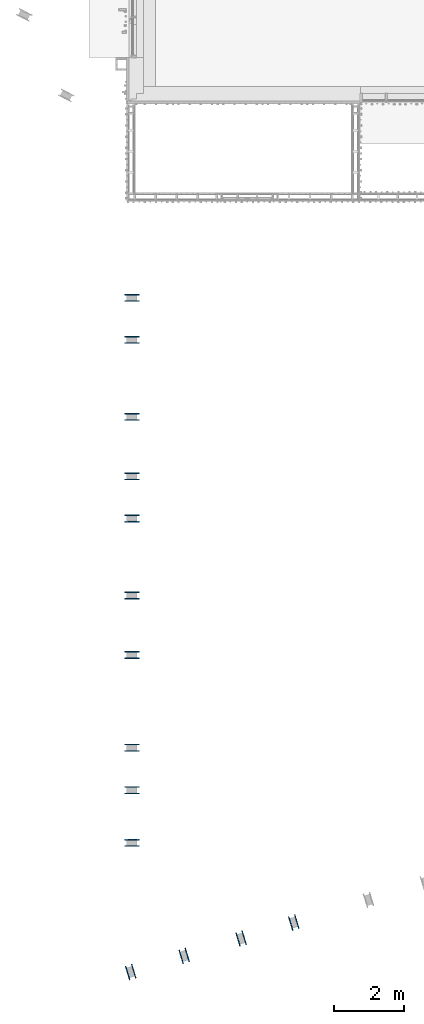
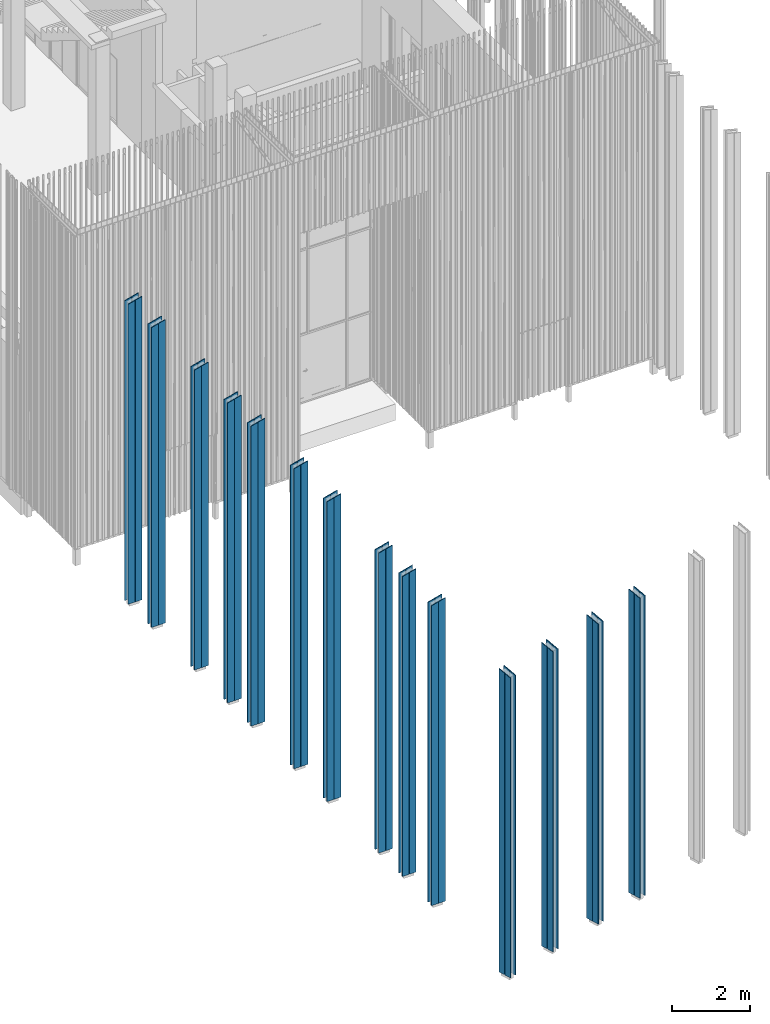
# One storey, part 28 of 390: 56 discrete accessories.
"""IFC2X3 building model written with IfcOpenShell, lengths in millimetres."""

from ifc_helpers import new_model, entity, si_unit, converted_unit, derived_unit, money_unit, direction, frame, origin_with_axes, place, context, subcontext, project, spatial, faceted_brep, source, transform, mapped, material, type_object, element, save


model = new_model("IFC2X3")

# Units and contexts
model_context = context("Model", 3, precision=1e-05, world=origin_with_axes(), true_north=direction((0.0, 1.0)))
body_context = subcontext(model_context, "Body", "Model", "MODEL_VIEW")
ifc_project = project(units=[si_unit("LENGTHUNIT", "METRE", prefix="MILLI"), si_unit("AREAUNIT", "SQUARE_METRE"), si_unit("VOLUMEUNIT", "CUBIC_METRE"), converted_unit("PLANEANGLEUNIT", "DEGREE", entity("IfcPlaneAngleMeasure", 0.0174532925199), si_unit("PLANEANGLEUNIT", "RADIAN"), dimensions=[0, 0, 0, 0, 0, 0, 0]), si_unit("SOLIDANGLEUNIT", "STERADIAN"), money_unit("EUR"), converted_unit("TIMEUNIT", "Year", entity("IfcTimeMeasure", 31556926.0), si_unit("TIMEUNIT", "SECOND"), dimensions=[0, 0, 1, 0, 0, 0, 0]), si_unit("MASSUNIT", "GRAM", prefix="KILO"), si_unit("THERMODYNAMICTEMPERATUREUNIT", "DEGREE_CELSIUS"), si_unit("LUMINOUSINTENSITYUNIT", "LUMEN"), si_unit("ENERGYUNIT", "JOULE", prefix="MEGA"), derived_unit("THERMALCONDUCTANCEUNIT", [(si_unit("POWERUNIT", "WATT"), 1), (si_unit("LENGTHUNIT", "METRE"), -1), (si_unit("THERMODYNAMICTEMPERATUREUNIT", "KELVIN"), -1)]), derived_unit("SPECIFICHEATCAPACITYUNIT", [(si_unit("ENERGYUNIT", "JOULE"), 1), (si_unit("MASSUNIT", "GRAM", prefix="KILO"), -1), (si_unit("THERMODYNAMICTEMPERATUREUNIT", "KELVIN"), -1)]), derived_unit("MASSDENSITYUNIT", [(si_unit("MASSUNIT", "GRAM", prefix="KILO"), 1), (si_unit("VOLUMEUNIT", "CUBIC_METRE"), -1)])], contexts=[model_context])

# Site, building, storey
site_placement = place(None, origin_with_axes())
site = spatial("IfcSite", under=ifc_project, at=site_placement, Name="Site", CompositionType="ELEMENT")
building_placement = place(site_placement, origin_with_axes())
building = spatial("IfcBuilding", under=site, at=building_placement, Name="Building", CompositionType="ELEMENT")
storey_placement = place(building_placement, origin_with_axes())
storey = spatial("IfcBuildingStorey", under=building, at=storey_placement, Name="1 korrus", CompositionType="ELEMENT", Elevation=0.0)

# Discrete accessories
ifc_material = material(Name="GENEERILINE - VÄLINE VOODER")
discrete_accessory_type = type_object("IfcDiscreteAccessoryType", Name="GENEERILINE - VÄLINE VOODER")
shared_shape_1 = source(origin_with_axes(), body_context, "Body", "Brep", [
    faceted_brep([(162190.360855, 119453.798876, 100.0), (162190.360855, 119453.798876, 9600.0), (162168.524839, 119456.480002, 9600.0), (162168.524839, 119456.480002, 100.0), (162214.734723, 119652.308107, 100.0), (162214.734723, 119652.308107, 9546.41016151), (162192.898708, 119654.989232, 9546.41016151), (162192.898708, 119654.989232, 100.0)], [[[0, 1, 2, 3]], [[1, 0, 4, 5]], [[2, 1, 5, 6]], [[3, 2, 6, 7]], [[0, 3, 7, 4]], [[7, 6, 5, 4]]]),
])
for number, where, z_axis, x_axis in (
    (1, (261109.441137, -115283.662465, 0.0), (0.0, 0.0, 1.0), (-0.121869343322, 0.992546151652, 0.0)),
    (2, (261109.441179, -122348.662465, 0.0), (0.0, 0.0, 1.0), (-0.121869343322, 0.992546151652, 0.0)),
    (3, (261109.441176, -120848.662465, 0.0), (0.0, 0.0, 1.0), (-0.121869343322, 0.992546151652, 0.0)),
    (4, (261109.441174, -119634.043718, 0.0), (0.0, 0.0, 1.0), (-0.121869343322, 0.992546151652, 0.0)),
    (5, (261109.441135, -116983.662465, 0.0), (0.0, 0.0, 1.0), (-0.121869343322, 0.992546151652, 0.0)),
    (6, (261109.441147, -106783.662465, 0.0), (0.0, 0.0, 1.0), (-0.121869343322, 0.992546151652, 0.0)),
    (7, (261109.441146, -107983.662465, 0.0), (0.0, 0.0, 1.0), (-0.121869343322, 0.992546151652, 0.0)),
    (8, (261109.441143, -110183.662465, 0.0), (0.0, 0.0, 1.0), (-0.121869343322, 0.992546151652, 0.0)),
    (9, (261109.441141, -111883.662465, 0.0), (0.0, 0.0, 1.0), (-0.121869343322, 0.992546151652, 0.0)),
    (10, (261109.44114, -113083.662465, 0.0), (0.0, 0.0, 1.0), (-0.121869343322, 0.992546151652, 0.0)),
    (11, (222491.660796, 195576.478839, 0.0), (0.0, 0.0, 1.0), (-0.914362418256, -0.404896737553, 0.0)),
    (12, (224018.916698, 196040.047948, 0.0), (0.0, 0.0, 1.0), (-0.914362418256, -0.404896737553, 0.0)),
    (13, (225644.126622, 196533.349113, 0.0), (0.0, 0.0, 1.0), (-0.914362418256, -0.404896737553, 0.0)),
    (14, (227149.110403, 196990.157949, 0.0), (0.0, 0.0, 1.0), (-0.914362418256, -0.404896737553, 0.0)),
):
    element("IfcDiscreteAccessory", number, at=place(storey_placement, frame(where, z_axis=z_axis, x_axis=x_axis)), inside=storey, type_object=discrete_accessory_type, material=ifc_material, Name="Päikesevarjestuspost", context=body_context, shape_type="MappedRepresentation", body=[
        mapped(shared_shape_1, transform((0.0, 0.0, 0.0))),
    ])
shared_shape_2 = source(origin_with_axes(), body_context, "Body", "Brep", [
    faceted_brep([(162194.117401, 119664.914694, 100.0), (162215.953417, 119662.233568, 100.0), (162215.953417, 119662.233568, 9543.73066959), (162194.117401, 119664.914694, 9543.73066959), (162218.49127, 119863.423924, 100.0), (162240.327285, 119860.742798, 100.0), (162240.327285, 119860.742798, 9490.1408311), (162218.49127, 119863.423924, 9490.1408311)], [[[0, 1, 2, 3]], [[1, 0, 4, 5]], [[2, 1, 5, 6]], [[3, 2, 6, 7]], [[0, 3, 7, 4]], [[4, 7, 6, 5]]]),
])
for number, where, z_axis, x_axis in (
    (15, (261109.441137, -115283.662465, 0.0), (0.0, 0.0, 1.0), (-0.121869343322, 0.992546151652, 0.0)),
    (16, (261109.441179, -122348.662465, 0.0), (0.0, 0.0, 1.0), (-0.121869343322, 0.992546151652, 0.0)),
    (17, (261109.441176, -120848.662465, 0.0), (0.0, 0.0, 1.0), (-0.121869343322, 0.992546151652, 0.0)),
    (18, (261109.441174, -119634.043718, 0.0), (0.0, 0.0, 1.0), (-0.121869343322, 0.992546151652, 0.0)),
    (19, (261109.441135, -116983.662465, 0.0), (0.0, 0.0, 1.0), (-0.121869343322, 0.992546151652, 0.0)),
    (20, (261109.441147, -106783.662465, 0.0), (0.0, 0.0, 1.0), (-0.121869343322, 0.992546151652, 0.0)),
    (21, (261109.441146, -107983.662465, 0.0), (0.0, 0.0, 1.0), (-0.121869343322, 0.992546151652, 0.0)),
    (22, (261109.441143, -110183.662465, 0.0), (0.0, 0.0, 1.0), (-0.121869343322, 0.992546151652, 0.0)),
    (23, (261109.441141, -111883.662465, 0.0), (0.0, 0.0, 1.0), (-0.121869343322, 0.992546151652, 0.0)),
    (24, (261109.44114, -113083.662465, 0.0), (0.0, 0.0, 1.0), (-0.121869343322, 0.992546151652, 0.0)),
    (25, (222491.660796, 195576.478839, 0.0), (0.0, 0.0, 1.0), (-0.914362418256, -0.404896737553, 0.0)),
    (26, (224018.916698, 196040.047948, 0.0), (0.0, 0.0, 1.0), (-0.914362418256, -0.404896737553, 0.0)),
    (27, (225644.126622, 196533.349113, 0.0), (0.0, 0.0, 1.0), (-0.914362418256, -0.404896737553, 0.0)),
    (28, (227149.110403, 196990.157949, 0.0), (0.0, 0.0, 1.0), (-0.914362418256, -0.404896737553, 0.0)),
):
    element("IfcDiscreteAccessory", number, at=place(storey_placement, frame(where, z_axis=z_axis, x_axis=x_axis)), inside=storey, type_object=discrete_accessory_type, material=ifc_material, Name="Päikesevarjestuspost", context=body_context, shape_type="MappedRepresentation", body=[
        mapped(shared_shape_2, transform((0.0, 0.0, 0.0))),
    ])
shared_shape_3 = source(origin_with_axes(), body_context, "Body", "Brep", [
    faceted_brep([(-162194.117401, 119664.914694, 100.0), (-162194.117401, 119664.914694, 9543.73066959), (-162215.953417, 119662.233568, 9543.73066959), (-162215.953417, 119662.233568, 100.0), (-162218.49127, 119863.423924, 100.0), (-162218.49127, 119863.423924, 9490.1408311), (-162240.327285, 119860.742798, 9490.1408311), (-162240.327285, 119860.742798, 100.0)], [[[0, 1, 2, 3]], [[0, 4, 5, 1]], [[1, 5, 6, 2]], [[2, 6, 7, 3]], [[3, 7, 4, 0]], [[4, 7, 6, 5]]]),
])
for number, where, z_axis, x_axis in (
    (29, (261109.441174, 173373.281232, 0.0), (0.0, 0.0, 1.0), (0.121869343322, 0.992546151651, 0.0)),
    (30, (261109.441179, 170658.662485, 0.0), (0.0, 0.0, 1.0), (0.121869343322, 0.992546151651, 0.0)),
    (31, (261109.441176, 172158.662485, 0.0), (0.0, 0.0, 1.0), (0.121869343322, 0.992546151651, 0.0)),
    (32, (261109.441135, 176023.662484, 0.0), (0.0, 0.0, 1.0), (0.121869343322, 0.992546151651, 0.0)),
    (33, (261109.441137, 177723.662484, 0.0), (0.0, 0.0, 1.0), (0.121869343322, 0.992546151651, 0.0)),
    (34, (261109.441147, 186223.662484, 0.0), (0.0, 0.0, 1.0), (0.121869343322, 0.992546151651, 0.0)),
    (35, (261109.441146, 185023.662484, 0.0), (0.0, 0.0, 1.0), (0.121869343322, 0.992546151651, 0.0)),
    (36, (261109.441143, 182823.662484, 0.0), (0.0, 0.0, 1.0), (0.121869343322, 0.992546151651, 0.0)),
    (37, (261109.441141, 181123.662484, 0.0), (0.0, 0.0, 1.0), (0.121869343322, 0.992546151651, 0.0)),
    (38, (261109.44114, 179923.662484, 0.0), (0.0, 0.0, 1.0), (0.121869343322, 0.992546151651, 0.0)),
    (39, (-57884.5282844, 110473.687634, 0.0), (0.0, 0.0, 1.0), (-0.985155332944, -0.171665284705, 0.0)),
    (40, (-56357.2723823, 110937.256744, 0.0), (0.0, 0.0, 1.0), (-0.985155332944, -0.171665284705, 0.0)),
    (41, (-54732.0624591, 111430.557909, 0.0), (0.0, 0.0, 1.0), (-0.985155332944, -0.171665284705, 0.0)),
    (42, (-53227.0786779, 111887.366745, 0.0), (0.0, 0.0, 1.0), (-0.985155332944, -0.171665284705, 0.0)),
):
    element("IfcDiscreteAccessory", number, at=place(storey_placement, frame(where, z_axis=z_axis, x_axis=x_axis)), inside=storey, type_object=discrete_accessory_type, material=ifc_material, Name="Päikesevarjestuspost", context=body_context, shape_type="MappedRepresentation", body=[
        mapped(shared_shape_3, transform((0.0, 0.0, 0.0))),
    ])
shared_shape_4 = source(origin_with_axes(), body_context, "Body", "Brep", [
    faceted_brep([(-162190.360855, 119453.798876, 100.0), (-162168.524839, 119456.480002, 100.0), (-162168.524839, 119456.480002, 9600.0), (-162190.360855, 119453.798876, 9600.0), (-162214.734723, 119652.308107, 100.0), (-162192.898708, 119654.989232, 100.0), (-162192.898708, 119654.989232, 9546.41016151), (-162214.734723, 119652.308107, 9546.41016151)], [[[0, 1, 2, 3]], [[0, 4, 5, 1]], [[1, 5, 6, 2]], [[2, 6, 7, 3]], [[3, 7, 4, 0]], [[5, 4, 7, 6]]]),
])
for number, where, z_axis, x_axis in (
    (43, (261109.441137, 177723.662484, 0.0), (0.0, 0.0, 1.0), (0.121869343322, 0.992546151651, 0.0)),
    (44, (261109.441174, 173373.281232, 0.0), (0.0, 0.0, 1.0), (0.121869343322, 0.992546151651, 0.0)),
    (45, (261109.441179, 170658.662485, 0.0), (0.0, 0.0, 1.0), (0.121869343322, 0.992546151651, 0.0)),
    (46, (261109.441176, 172158.662485, 0.0), (0.0, 0.0, 1.0), (0.121869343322, 0.992546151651, 0.0)),
    (47, (261109.441135, 176023.662484, 0.0), (0.0, 0.0, 1.0), (0.121869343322, 0.992546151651, 0.0)),
    (48, (261109.441147, 186223.662484, 0.0), (0.0, 0.0, 1.0), (0.121869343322, 0.992546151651, 0.0)),
    (49, (261109.441146, 185023.662484, 0.0), (0.0, 0.0, 1.0), (0.121869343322, 0.992546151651, 0.0)),
    (50, (261109.441143, 182823.662484, 0.0), (0.0, 0.0, 1.0), (0.121869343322, 0.992546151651, 0.0)),
    (51, (261109.441141, 181123.662484, 0.0), (0.0, 0.0, 1.0), (0.121869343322, 0.992546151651, 0.0)),
    (52, (261109.44114, 179923.662484, 0.0), (0.0, 0.0, 1.0), (0.121869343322, 0.992546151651, 0.0)),
    (53, (-57884.5282844, 110473.687634, 0.0), (0.0, 0.0, 1.0), (-0.985155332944, -0.171665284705, 0.0)),
    (54, (-56357.2723823, 110937.256744, 0.0), (0.0, 0.0, 1.0), (-0.985155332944, -0.171665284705, 0.0)),
    (55, (-54732.0624591, 111430.557909, 0.0), (0.0, 0.0, 1.0), (-0.985155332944, -0.171665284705, 0.0)),
    (56, (-53227.0786779, 111887.366745, 0.0), (0.0, 0.0, 1.0), (-0.985155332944, -0.171665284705, 0.0)),
):
    element("IfcDiscreteAccessory", number, at=place(storey_placement, frame(where, z_axis=z_axis, x_axis=x_axis)), inside=storey, type_object=discrete_accessory_type, material=ifc_material, Name="Päikesevarjestuspost", context=body_context, shape_type="MappedRepresentation", body=[
        mapped(shared_shape_4, transform((0.0, 0.0, 0.0))),
    ])

save(model, "model.ifc")
